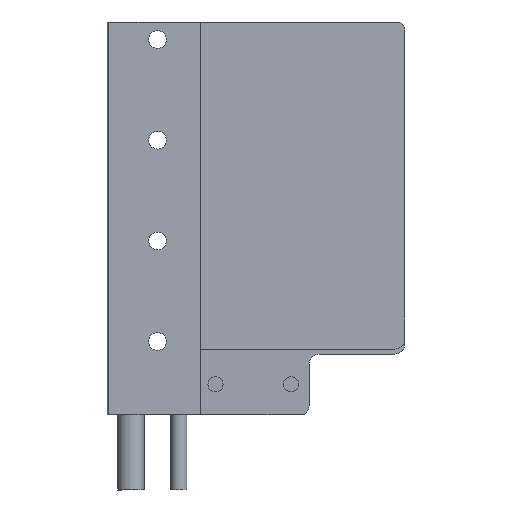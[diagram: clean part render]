
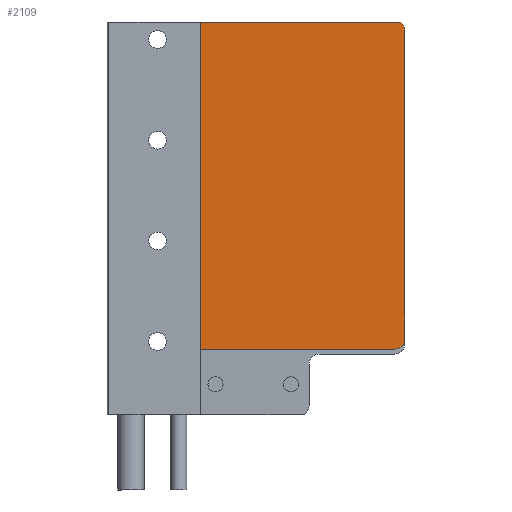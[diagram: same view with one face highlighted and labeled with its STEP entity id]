
A CAD part, front view. The second image highlights one B-rep face of the part: STEP entity #2109.
In plain terms, the highlighted planar face has unit normal (0, -1, 0).
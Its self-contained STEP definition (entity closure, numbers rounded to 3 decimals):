
#19 = CARTESIAN_POINT ( 'NONE',  ( 20.747, 35.405, 111.623 ) ) ;
#36 = EDGE_CURVE ( 'NONE', #542, #218, #615, .T. ) ;
#57 = DIRECTION ( 'NONE',  ( 0., -1., 0. ) ) ;
#101 = LINE ( 'NONE', #1044, #258 ) ;
#140 = VERTEX_POINT ( 'NONE', #650 ) ;
#150 = ORIENTED_EDGE ( 'NONE', *, *, #36, .T. ) ;
#204 = VERTEX_POINT ( 'NONE', #2993 ) ;
#218 = VERTEX_POINT ( 'NONE', #2313 ) ;
#257 = CARTESIAN_POINT ( 'NONE',  ( 20.747, 35.405, 111.623 ) ) ;
#258 = VECTOR ( 'NONE', #1977, 1000. ) ;
#315 = VERTEX_POINT ( 'NONE', #938 ) ;
#344 = DIRECTION ( 'NONE',  ( -1., 0., 0. ) ) ;
#349 = ORIENTED_EDGE ( 'NONE', *, *, #1284, .F. ) ;
#522 = PLANE ( 'NONE',  #1346 ) ;
#542 = VERTEX_POINT ( 'NONE', #1791 ) ;
#556 = CARTESIAN_POINT ( 'NONE',  ( 59.347, 35.405, 89.719 ) ) ;
#615 = CIRCLE ( 'NONE', #2580, 2. ) ;
#650 = CARTESIAN_POINT ( 'NONE',  ( 60.401, 35.405, 91.419 ) ) ;
#889 = LINE ( 'NONE', #19, #1650 ) ;
#896 = EDGE_CURVE ( 'NONE', #542, #204, #3027, .T. ) ;
#938 = CARTESIAN_POINT ( 'NONE',  ( 20.747, 35.405, 91.419 ) ) ;
#1044 = CARTESIAN_POINT ( 'NONE',  ( 4.247, 35.405, 91.419 ) ) ;
#1105 = CARTESIAN_POINT ( 'NONE',  ( 61.347, 35.405, 111.623 ) ) ;
#1156 = DIRECTION ( 'NONE',  ( 0., 0., -1. ) ) ;
#1165 = DIRECTION ( 'NONE',  ( 0., 0., -1. ) ) ;
#1284 = EDGE_CURVE ( 'NONE', #2593, #218, #1400, .T. ) ;
#1346 = AXIS2_PLACEMENT_3D ( 'NONE', #257, #1696, #1478 ) ;
#1379 = CARTESIAN_POINT ( 'NONE',  ( 61.347, 35.405, 26.419 ) ) ;
#1400 = LINE ( 'NONE', #1105, #1558 ) ;
#1478 = DIRECTION ( 'NONE',  ( -1., 0., 0. ) ) ;
#1485 = EDGE_LOOP ( 'NONE', ( #349, #2402, #1499, #2291, #2118, #150 ) ) ;
#1499 = ORIENTED_EDGE ( 'NONE', *, *, #1683, .F. ) ;
#1558 = VECTOR ( 'NONE', #1156, 1000. ) ;
#1625 = EDGE_CURVE ( 'NONE', #2593, #140, #2522, .T. ) ;
#1650 = VECTOR ( 'NONE', #1165, 1000. ) ;
#1683 = EDGE_CURVE ( 'NONE', #315, #140, #101, .T. ) ;
#1696 = DIRECTION ( 'NONE',  ( 0., 1., 0. ) ) ;
#1734 = DIRECTION ( 'NONE',  ( 0., -1., 0. ) ) ;
#1742 = FACE_OUTER_BOUND ( 'NONE', #1485, .T. ) ;
#1791 = CARTESIAN_POINT ( 'NONE',  ( 59.347, 35.405, 26.419 ) ) ;
#1943 = AXIS2_PLACEMENT_3D ( 'NONE', #556, #57, #2164 ) ;
#1977 = DIRECTION ( 'NONE',  ( 1., 0., 0. ) ) ;
#2109 = ADVANCED_FACE ( 'NONE', ( #1742 ), #522, .F. ) ;
#2118 = ORIENTED_EDGE ( 'NONE', *, *, #896, .F. ) ;
#2164 = DIRECTION ( 'NONE',  ( -1., 0., 0. ) ) ;
#2200 = CARTESIAN_POINT ( 'NONE',  ( 61.347, 35.405, 89.719 ) ) ;
#2291 = ORIENTED_EDGE ( 'NONE', *, *, #2346, .T. ) ;
#2313 = CARTESIAN_POINT ( 'NONE',  ( 61.347, 35.405, 28.419 ) ) ;
#2346 = EDGE_CURVE ( 'NONE', #315, #204, #889, .T. ) ;
#2402 = ORIENTED_EDGE ( 'NONE', *, *, #1625, .T. ) ;
#2516 = DIRECTION ( 'NONE',  ( -1., 0., 0. ) ) ;
#2522 = CIRCLE ( 'NONE', #1943, 2. ) ;
#2580 = AXIS2_PLACEMENT_3D ( 'NONE', #2697, #1734, #344 ) ;
#2593 = VERTEX_POINT ( 'NONE', #2200 ) ;
#2697 = CARTESIAN_POINT ( 'NONE',  ( 59.347, 35.405, 28.419 ) ) ;
#2818 = VECTOR ( 'NONE', #2516, 1000. ) ;
#2993 = CARTESIAN_POINT ( 'NONE',  ( 20.747, 35.405, 26.419 ) ) ;
#3027 = LINE ( 'NONE', #1379, #2818 ) ;
